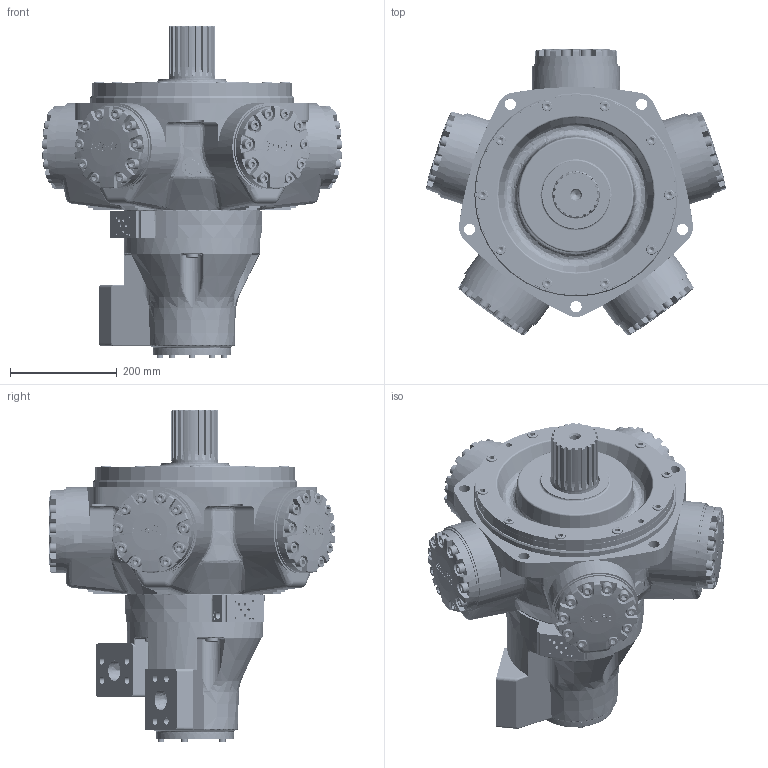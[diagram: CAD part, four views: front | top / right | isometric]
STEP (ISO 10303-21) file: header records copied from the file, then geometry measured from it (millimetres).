
FILE_DESCRIPTION((''),'2;1');
FILE_NAME('I:\3D Step files\Staffa\HMC125 S FM4 C 70.stp','2009-06-30T12:10:40',('mnorman'),(''),'Autodesk Inventor 2010','Autodesk Inventor 2010','');
FILE_SCHEMA(('AUTOMOTIVE_DESIGN { 1 0 10303 214 1 1 1 1 }'));
Length unit declared in the file: millimetre
Products named in the file (1): Part6
Bounding box: 562.18 x 537.45 x 621.91 mm (x, y, z)
Volume: 28517911.7 mm3; surface area: 2301655.6 mm2
Topology: 80 solids, 80 shells, 3949 faces, 9216 edges, 5761 vertices
Faces by surface type: plane 1385, bspline 1319, cylinder 747, cone 313, torus 175, sphere 10
Full cylindrical faces by diameter (mm): 7.938 x6, 11.328 x25, 11.913 x5, 12 x1, 12.7 x60, 13.5 x25, 15.875 x5, 16.272 x5, 16.51 x1, 16.7 x5, 19.05 x61, 20.6 x25, 21 x5, 23.825 x5, 25 x5, 25.4 x5, 28.575 x5, 28.677 x5, 38.1 x5, 38.176 x5, 65.1 x1, 79.375 x1, 87.889 x1, 88.837 x1, 88.9 x1, 88.951 x1, 92.075 x1, 92.15 x5, 92.151 x1, 92.964 x1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
Entity records: 146110 total; most frequent: CARTESIAN_POINT 66522, ORIENTED_EDGE 15946, DIRECTION 13047, EDGE_CURVE 7973, VERTEX_POINT 5458, EDGE_LOOP 5261, AXIS2_PLACEMENT_3D 5032, FACE_OUTER_BOUND 3942
